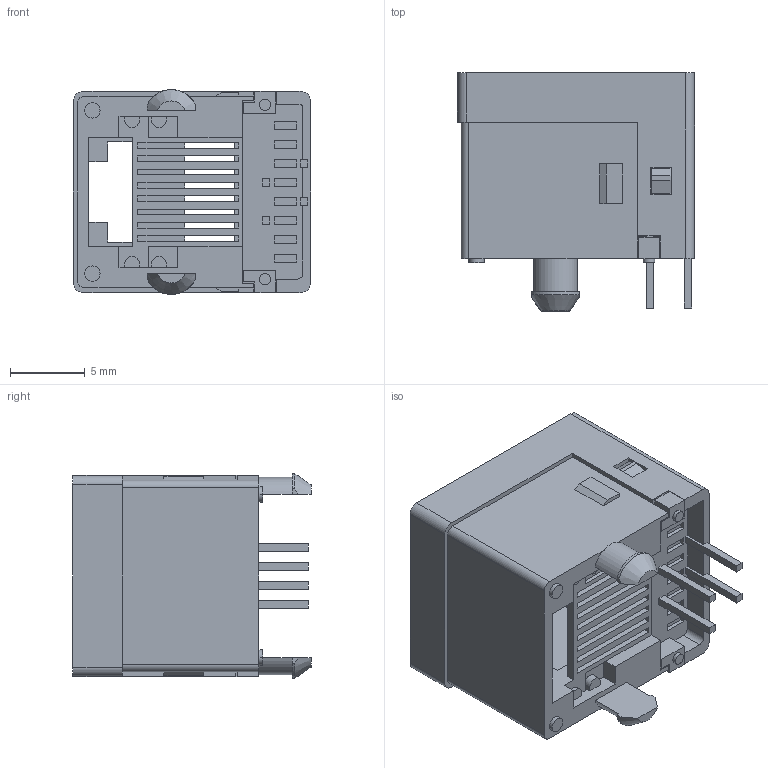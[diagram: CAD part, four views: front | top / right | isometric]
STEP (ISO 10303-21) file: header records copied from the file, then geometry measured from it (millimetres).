
FILE_DESCRIPTION((''),'2;1');
FILE_NAME('428786362','2015-06-19T',('me'),(''),'PRO/ENGINEER BY PARAMETRIC TECHNOLOGY CORPORATION, 2011490','PRO/ENGINEER BY PARAMETRIC TECHNOLOGY CORPORATION, 2011490','');
FILE_SCHEMA(('CONFIG_CONTROL_DESIGN'));
Length unit declared in the file: inch
Products named in the file (1): 428786362
Bounding box: 15.88 x 15.95 x 13.72 mm (x, y, z)
Volume: 1470.1 mm3; surface area: 1842.3 mm2
Topology: 3 solids, 3 shells, 293 faces, 840 edges, 570 vertices
Faces by surface type: plane 259, cylinder 32, cone 2
Entity records: 9529 total; most frequent: CARTESIAN_POINT 1733, ORIENTED_EDGE 1644, DIRECTION 1498, EDGE_CURVE 822, VECTOR 748, LINE 748, VERTEX_POINT 546, AXIS2_PLACEMENT_3D 375
